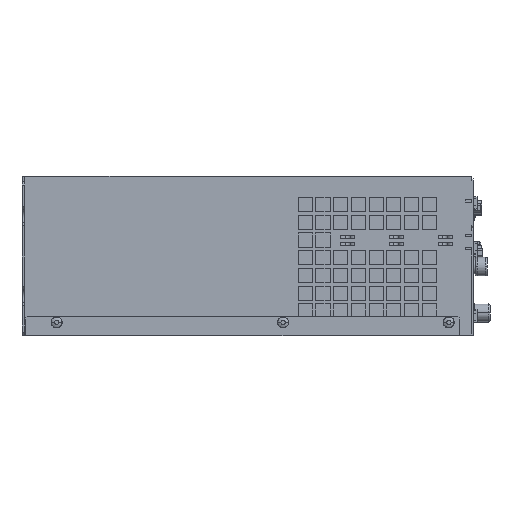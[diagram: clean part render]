
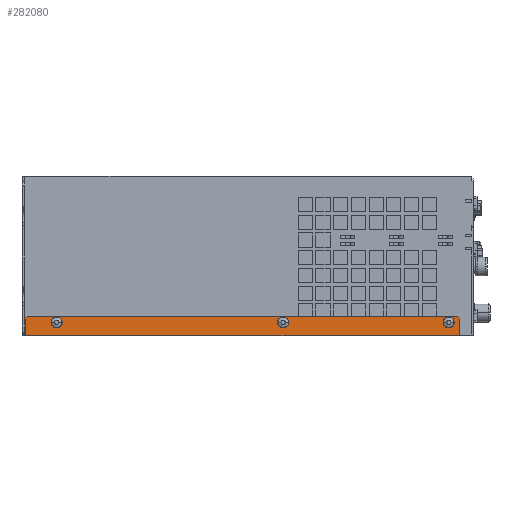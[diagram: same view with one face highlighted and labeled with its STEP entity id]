
A CAD part, front view. The second image highlights one B-rep face of the part: STEP entity #282080.
In plain terms, the highlighted planar face has unit normal (0, -1, 0).
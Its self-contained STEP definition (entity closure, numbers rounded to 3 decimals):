
#224430=CARTESIAN_POINT('',(-8.204,15.897,
-71.25));
#224440=VERTEX_POINT('',#224430);
#224470=CARTESIAN_POINT('',(236.796,15.897,-71.25)
);
#224480=DIRECTION('',(-1.,0.,0.));
#224490=VECTOR('',#224480,1.);
#224500=LINE('',#224470,#224490);
#224510=CARTESIAN_POINT('',(236.796,15.897,-71.25)
);
#224520=VERTEX_POINT('',#224510);
#224530=EDGE_CURVE('',#224520,#224440,#224500,.T.);
#270140=CARTESIAN_POINT('',(236.796,15.897,-61.25)
);
#270150=VERTEX_POINT('',#270140);
#270200=CARTESIAN_POINT('',(236.796,15.897,-62.64))
;
#270210=DIRECTION('',(0.,0.,1.));
#270220=VECTOR('',#270210,1.);
#270230=LINE('',#270200,#270220);
#270240=EDGE_CURVE('',#224520,#270150,#270230,.T.);
#270900=CARTESIAN_POINT('',(-7.204,15.897,
-60.25));
#270910=VERTEX_POINT('',#270900);
#270940=CARTESIAN_POINT('',(-9.594,15.897,
-62.64));
#270950=DIRECTION('',(0.707,0.,0.707));
#270960=VECTOR('',#270950,1.);
#270970=LINE('',#270940,#270960);
#270980=CARTESIAN_POINT('',(-8.204,15.897,
-61.25));
#270990=VERTEX_POINT('',#270980);
#271000=EDGE_CURVE('',#270990,#270910,#270970,.T.);
#271480=CARTESIAN_POINT('',(235.796,15.897,-60.25)
);
#271490=VERTEX_POINT('',#271480);
#271520=CARTESIAN_POINT('',(-3.104,15.897,
-60.25));
#271530=DIRECTION('',(-1.,0.,0.));
#271540=VECTOR('',#271530,1.);
#271550=LINE('',#271520,#271540);
#271560=EDGE_CURVE('',#271490,#270910,#271550,.T.);
#271680=CARTESIAN_POINT('',(238.186,15.897,-62.64))
;
#271690=DIRECTION('',(0.707,0.,-0.707));
#271700=VECTOR('',#271690,1.);
#271710=LINE('',#271680,#271700);
#271720=EDGE_CURVE('',#271490,#270150,#271710,.T.);
#281450=CARTESIAN_POINT('',(134.486,15.897,
-63.75));
#281460=DIRECTION('',(-0.,-1.,-0.));
#281470=DIRECTION('',(-1.,0.,0.));
#281480=AXIS2_PLACEMENT_3D('',#281450,#281460,#281470);
#281490=PLANE('',#281480);
#281500=CARTESIAN_POINT('',(230.831,15.897,
-63.75));
#281510=DIRECTION('',(0.,-1.,0.));
#281520=DIRECTION('',(1.,0.,0.));
#281530=AXIS2_PLACEMENT_3D('',#281500,#281510,#281520);
#281540=CIRCLE('',#281530,3.15);
#281550=CARTESIAN_POINT('',(233.981,15.897,
-63.75));
#281560=VERTEX_POINT('',#281550);
#281570=CARTESIAN_POINT('',(227.681,15.897,
-63.75));
#281580=VERTEX_POINT('',#281570);
#281590=EDGE_CURVE('',#281560,#281580,#281540,.T.);
#281600=ORIENTED_EDGE('',*,*,#281590,.F.);
#281610=EDGE_CURVE('',#281580,#281560,#281540,.T.);
#281620=ORIENTED_EDGE('',*,*,#281610,.F.);
#281630=EDGE_LOOP('',(#281620,#281600));
#281640=FACE_BOUND('',#281630,.T.);
#281650=CARTESIAN_POINT('',(9.331,15.897,
-63.75));
#281660=DIRECTION('',(0.,-1.,0.));
#281670=DIRECTION('',(1.,0.,0.));
#281680=AXIS2_PLACEMENT_3D('',#281650,#281660,#281670);
#281690=CIRCLE('',#281680,3.15);
#281700=CARTESIAN_POINT('',(12.481,15.897,
-63.75));
#281710=VERTEX_POINT('',#281700);
#281720=CARTESIAN_POINT('',(6.181,15.897,
-63.75));
#281730=VERTEX_POINT('',#281720);
#281740=EDGE_CURVE('',#281710,#281730,#281690,.T.);
#281750=ORIENTED_EDGE('',*,*,#281740,.F.);
#281760=EDGE_CURVE('',#281730,#281710,#281690,.T.);
#281770=ORIENTED_EDGE('',*,*,#281760,.F.);
#281780=EDGE_LOOP('',(#281770,#281750));
#281790=FACE_BOUND('',#281780,.T.);
#281800=CARTESIAN_POINT('',(137.231,15.897,
-63.75));
#281810=DIRECTION('',(0.,-1.,0.));
#281820=DIRECTION('',(1.,0.,0.));
#281830=AXIS2_PLACEMENT_3D('',#281800,#281810,#281820);
#281840=CIRCLE('',#281830,3.15);
#281850=CARTESIAN_POINT('',(140.381,15.897,
-63.75));
#281860=VERTEX_POINT('',#281850);
#281870=CARTESIAN_POINT('',(134.081,15.897,
-63.75));
#281880=VERTEX_POINT('',#281870);
#281890=EDGE_CURVE('',#281860,#281880,#281840,.T.);
#281900=ORIENTED_EDGE('',*,*,#281890,.F.);
#281910=EDGE_CURVE('',#281880,#281860,#281840,.T.);
#281920=ORIENTED_EDGE('',*,*,#281910,.F.);
#281930=EDGE_LOOP('',(#281920,#281900));
#281940=FACE_BOUND('',#281930,.T.);
#281950=ORIENTED_EDGE('',*,*,#271000,.F.);
#281960=ORIENTED_EDGE('',*,*,#271560,.T.);
#281970=ORIENTED_EDGE('',*,*,#271720,.F.);
#281980=ORIENTED_EDGE('',*,*,#270240,.T.);
#281990=ORIENTED_EDGE('',*,*,#224530,.F.);
#282000=CARTESIAN_POINT('',(-8.204,15.897,
-69.25));
#282010=DIRECTION('',(0.,0.,-1.));
#282020=VECTOR('',#282010,1.);
#282030=LINE('',#282000,#282020);
#282040=EDGE_CURVE('',#270990,#224440,#282030,.T.);
#282050=ORIENTED_EDGE('',*,*,#282040,.T.);
#282060=EDGE_LOOP('',(#282050,#281990,#281980,#281970,#281960,#281950));
#282070=FACE_OUTER_BOUND('',#282060,.T.);
#282080=ADVANCED_FACE('',(#281640,#281790,#281940,#282070),#281490,.T.);
